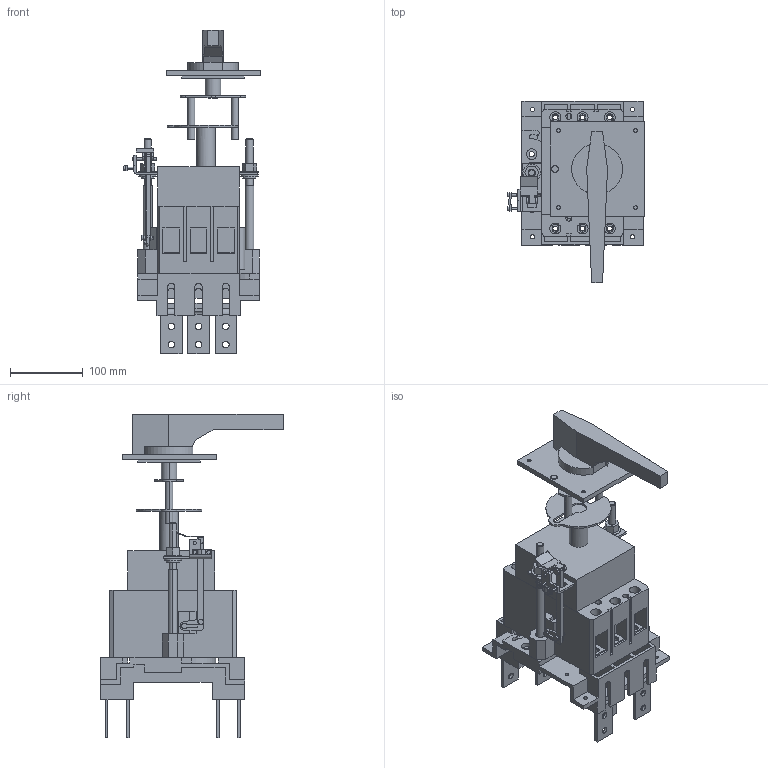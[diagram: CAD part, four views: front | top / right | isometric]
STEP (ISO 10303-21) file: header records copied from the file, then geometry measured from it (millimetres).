
FILE_DESCRIPTION (( 'STEP AP214' ), '1' );
FILE_NAME ('50 (2).STEP', '2023-08-09T05:53:05', ( '' ), ( '' ), 'SwSTEP 2.0', 'SolidWorks 2018', '' );
FILE_SCHEMA (( 'AUTOMOTIVE_DESIGN' ));
Length unit declared in the file: millimetre
Products named in the file (5): 臍57-35_2; ÂÀ57-35 äîï._®¡à¥§ ­­ ï £®«®¢¯ ; Îñíîâàíèå è âûâîäû; 50 (2); ÂÀ57-35 ðóêîÿòêà äëÿ ñáîðêè
Assembly tree (4 placements, depth 2):
  50 (2)
    Îñíîâàíèå è âûâîäû
    臍57-35_2
    ÂÀ57-35 äîï._®¡à¥§ ­­ ï £®«®¢¯ 
    ÂÀ57-35 ðóêîÿòêà äëÿ ñáîðêè
Bounding box: 187.56 x 250.77 x 444.75 mm (x, y, z)
Volume: 3607171.2 mm3; surface area: 496800.3 mm2
Topology: 13 solids, 13 shells, 894 faces, 2383 edges, 1557 vertices
Faces by surface type: plane 590, cylinder 304
Entity records: 33648 total; most frequent: CARTESIAN_POINT 4841, DIRECTION 4811, ORIENTED_EDGE 4766, EDGE_CURVE 2383, LINE 1757, VECTOR 1757, VERTEX_POINT 1557, AXIS2_PLACEMENT_3D 1527
